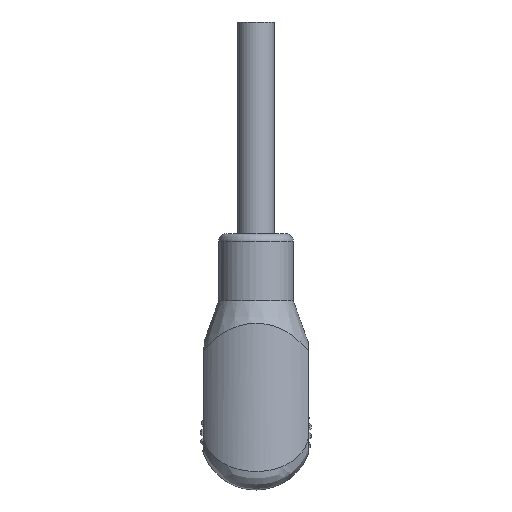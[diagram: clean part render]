
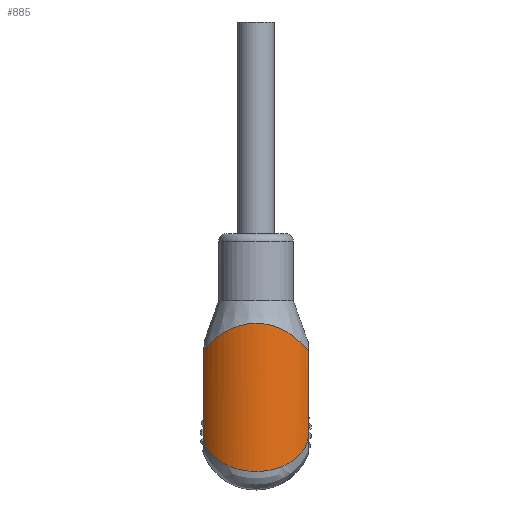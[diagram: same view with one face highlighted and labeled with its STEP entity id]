
A CAD part, front view. The second image highlights one B-rep face of the part: STEP entity #885.
In plain terms, the highlighted cylindrical face has radius 8.606 mm (diameter 17.211 mm), a partial arc.
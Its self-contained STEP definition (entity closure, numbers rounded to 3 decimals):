
#391=B_SPLINE_CURVE_WITH_KNOTS('',3,(#14671,#14672,#14673,#14674,#14675,
#14676,#14677,#14678,#14679,#14680),.UNSPECIFIED.,.F.,.F.,(4,2,2,2,4),(0.,
0.25,0.5,0.75,1.),.UNSPECIFIED.);
#393=B_SPLINE_CURVE_WITH_KNOTS('',3,(#14696,#14697,#14698,#14699,#14700,
#14701,#14702,#14703,#14704,#14705,#14706,#14707,#14708,#14709,#14710,#14711,
#14712,#14713,#14714,#14715,#14716,#14717,#14718,#14719,#14720,#14721),
 .UNSPECIFIED.,.F.,.F.,(4,2,2,2,2,2,2,2,2,2,2,2,4),(0.,0.062,
0.094,0.109,0.125,0.25,0.5,0.75,0.812,
0.844,0.859,0.875,1.),.UNSPECIFIED.);
#677=CYLINDRICAL_SURFACE('',#10070,8.606);
#885=ADVANCED_FACE('',(#1654),#677,.T.);
#1654=FACE_OUTER_BOUND('',#2163,.T.);
#2163=EDGE_LOOP('',(#4374,#4375,#4376,#4377));
#2802=LINE('',#13934,#3493);
#2853=LINE('',#14641,#3544);
#3493=VECTOR('',#11130,1.);
#3544=VECTOR('',#11195,1.);
#4374=ORIENTED_EDGE('',*,*,#8157,.F.);
#4375=ORIENTED_EDGE('',*,*,#8259,.T.);
#4376=ORIENTED_EDGE('',*,*,#8246,.T.);
#4377=ORIENTED_EDGE('',*,*,#8263,.T.);
#7168=VERTEX_POINT('',#13933);
#7169=VERTEX_POINT('',#13935);
#7249=VERTEX_POINT('',#14640);
#7250=VERTEX_POINT('',#14642);
#8157=EDGE_CURVE('',#7168,#7169,#2802,.T.);
#8246=EDGE_CURVE('',#7250,#7249,#2853,.T.);
#8259=EDGE_CURVE('',#7168,#7250,#391,.T.);
#8263=EDGE_CURVE('',#7249,#7169,#393,.T.);
#10070=AXIS2_PLACEMENT_3D('',#14783,#11232,#11233);
#11130=DIRECTION('',(0.,0.,-1.));
#11195=DIRECTION('',(0.,0.,-1.));
#11232=DIRECTION('',(0.,0.,-1.));
#11233=DIRECTION('',(-1.,0.,0.));
#13933=CARTESIAN_POINT('',(7.,-4.453,11.248));
#13934=CARTESIAN_POINT('',(7.,-4.453,18.));
#13935=CARTESIAN_POINT('',(7.,-4.453,-0.578));
#14640=CARTESIAN_POINT('',(-7.,-4.453,-0.578));
#14641=CARTESIAN_POINT('',(-7.,-4.453,18.));
#14642=CARTESIAN_POINT('',(-7.,-4.453,11.248));
#14671=CARTESIAN_POINT('',(7.,-4.453,11.248));
#14672=CARTESIAN_POINT('',(6.292,-5.442,12.174));
#14673=CARTESIAN_POINT('',(5.375,-6.302,13.044));
#14674=CARTESIAN_POINT('',(3.01,-7.622,14.449));
#14675=CARTESIAN_POINT('',(1.532,-8.051,14.945));
#14676=CARTESIAN_POINT('',(-1.511,-8.054,14.949));
#14677=CARTESIAN_POINT('',(-3.,-7.625,14.452));
#14678=CARTESIAN_POINT('',(-5.355,-6.317,13.06));
#14679=CARTESIAN_POINT('',(-6.291,-5.444,12.175));
#14680=CARTESIAN_POINT('',(-7.,-4.453,11.248));
#14696=CARTESIAN_POINT('',(-7.,-4.453,-0.578));
#14697=CARTESIAN_POINT('',(-6.947,-4.526,-0.9));
#14698=CARTESIAN_POINT('',(-6.851,-4.66,-1.223));
#14699=CARTESIAN_POINT('',(-6.628,-4.937,-1.711));
#14700=CARTESIAN_POINT('',(-6.54,-5.043,-1.874));
#14701=CARTESIAN_POINT('',(-6.385,-5.217,-2.119));
#14702=CARTESIAN_POINT('',(-6.33,-5.278,-2.201));
#14703=CARTESIAN_POINT('',(-6.21,-5.405,-2.365));
#14704=CARTESIAN_POINT('',(-6.13,-5.487,-2.467));
#14705=CARTESIAN_POINT('',(-5.666,-5.951,-3.03));
#14706=CARTESIAN_POINT('',(-5.13,-6.398,-3.48));
#14707=CARTESIAN_POINT('',(-3.181,-7.587,-4.619));
#14708=CARTESIAN_POINT('',(-1.619,-8.052,-4.999));
#14709=CARTESIAN_POINT('',(1.612,-8.053,-5.001));
#14710=CARTESIAN_POINT('',(3.151,-7.603,-4.634));
#14711=CARTESIAN_POINT('',(4.805,-6.597,-3.67));
#14712=CARTESIAN_POINT('',(5.102,-6.385,-3.463));
#14713=CARTESIAN_POINT('',(5.501,-6.067,-3.13));
#14714=CARTESIAN_POINT('',(5.626,-5.961,-3.016));
#14715=CARTESIAN_POINT('',(5.803,-5.802,-2.839));
#14716=CARTESIAN_POINT('',(5.86,-5.75,-2.779));
#14717=CARTESIAN_POINT('',(5.971,-5.645,-2.657));
#14718=CARTESIAN_POINT('',(6.008,-5.609,-2.615));
#14719=CARTESIAN_POINT('',(6.622,-4.996,-1.874));
#14720=CARTESIAN_POINT('',(6.894,-4.6,-1.222));
#14721=CARTESIAN_POINT('',(7.,-4.453,-0.578));
#14783=CARTESIAN_POINT('',(0.,0.553,18.));
